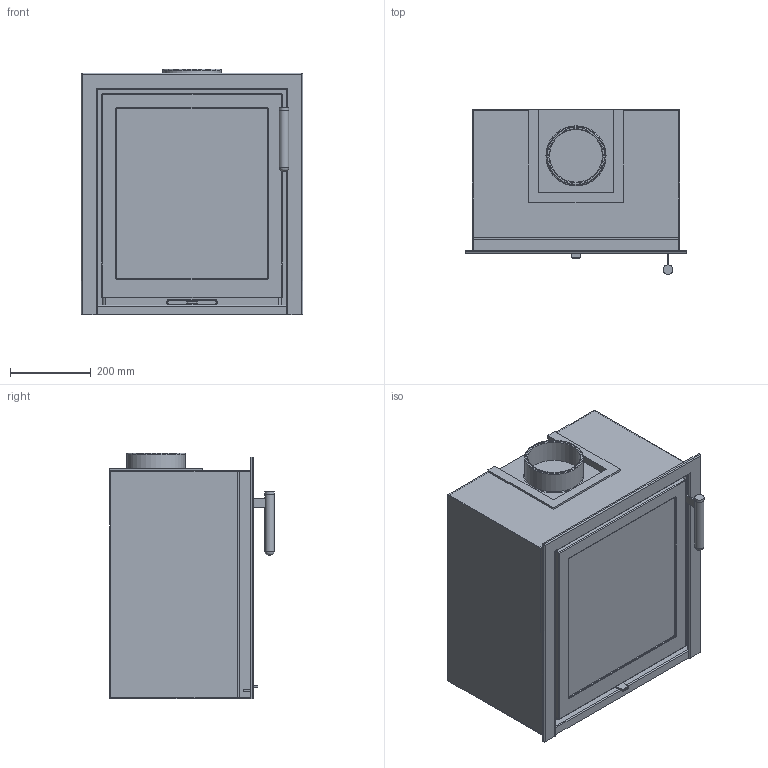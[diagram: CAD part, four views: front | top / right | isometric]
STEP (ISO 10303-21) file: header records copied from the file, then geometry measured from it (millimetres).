
FILE_DESCRIPTION(/* description */ ('Unknown'),/* implementation_level */ '2;1');
FILE_NAME(/* name */ 'Ci2 3-side frame',/* time_stamp */ '2024-09-30T13:41:52+02:00',/* author */ ('Unknown'),/* organization */ ('Unknown'),/* preprocessor_version */ 'ST-DEVELOPER v18.102',/* originating_system */ 'Solid Edge',/* authorisation */ 'Unknown');
FILE_SCHEMA (('AUTOMOTIVE_DESIGN {1 0 10303 214 3 1 1}'));
Length unit declared in the file: millimetre
Products named in the file (8): DSN1058348; DSN1058347; DSN1058328; DSN1058329; DSN1058330; DSN1058332; DSN1058335; DSN1058333
Assembly tree (7 placements, depth 2):
  DSN1058348
    DSN1058347
    DSN1058328
    DSN1058329
    DSN1058330
    DSN1058332
    DSN1058335
    DSN1058333
Bounding box: 549 x 407.9 x 608.4 mm (x, y, z)
Volume: 23319317 mm3; surface area: 6123711.7 mm2
Topology: 8 solids, 8 shells, 726 faces, 1819 edges, 1152 vertices
Faces by surface type: plane 403, cylinder 155, bspline 124, torus 34, sphere 10
Full cylindrical faces by diameter (mm): 6.027 x9, 23 x1, 23.4 x1, 130.55 x1, 145 x1
Entity records: 26131 total; most frequent: CARTESIAN_POINT 9109, ORIENTED_EDGE 3544, DIRECTION 3222, EDGE_CURVE 1772, LINE 1214, VECTOR 1214, VERTEX_POINT 1140, AXIS2_PLACEMENT_3D 1004
